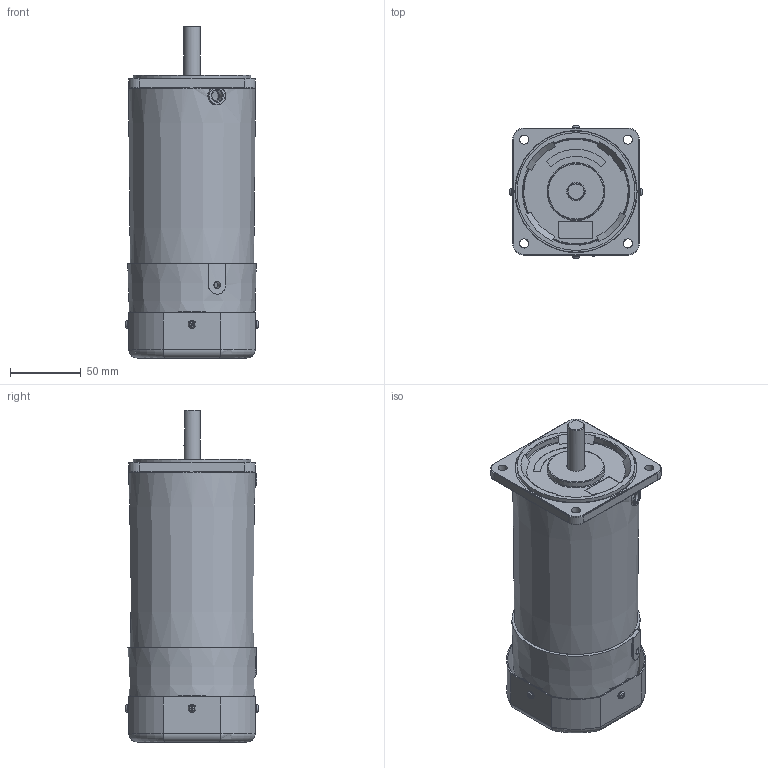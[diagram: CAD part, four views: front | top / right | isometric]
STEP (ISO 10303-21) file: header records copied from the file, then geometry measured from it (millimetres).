
FILE_DESCRIPTION(/* description */ (''),/* implementation_level */ '2;1');
FILE_NAME(/* name */ 'Y:\제품연구개발\4. 개발프로젝트\2. 프로젝트_제품군별\2. STANDARD AC\공유 (이현극)\AC 3D 파일 정리 및 검토\S9I180_-E\S9I180D_-E.stp',/* time_stamp */ '2024-01-09T11:01:45+09:00',/* author */ ('shyi1037'),/* organization */ (''),/* preprocessor_version */ 'ST-DEVELOPER v18.1',/* originating_system */ 'Autodesk Inventor 2022',/* authorisation */ '');
FILE_SCHEMA (('AUTOMOTIVE_DESIGN { 1 0 10303 214 3 1 1 }'));
Length unit declared in the file: millimetre
Products named in the file (1): S9I180D_-E
Bounding box: 94.36 x 94.36 x 235.3 mm (x, y, z)
Volume: 290188.3 mm3; surface area: 188230.2 mm2
Topology: 4 solids, 4 shells, 647 faces, 1680 edges, 1097 vertices
Faces by surface type: plane 256, cylinder 166, cone 88, torus 84, bspline 48, sphere 5
Full cylindrical faces by diameter (mm): 1.5 x12, 2.459 x4, 2.693 x4, 3 x8, 3.5 x4, 5 x5, 6.5 x5, 8 x2, 10 x1, 10.2 x1, 12 x2, 13 x1, 14.9 x1, 15 x1, 19 x2, 26 x1, 28 x1, 29 x1, 34 x1, 40 x1, 44.8 x1, 46 x1, 58.8 x1, 60 x2, 66 x1, 68.4 x1, 70 x1, 80 x1, 83 x1, 83.2 x2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
Entity records: 24663 total; most frequent: CARTESIAN_POINT 7981, ORIENTED_EDGE 3344, DIRECTION 3338, EDGE_CURVE 1672, AXIS2_PLACEMENT_3D 1344, VERTEX_POINT 1097, EDGE_LOOP 773, CIRCLE 712
